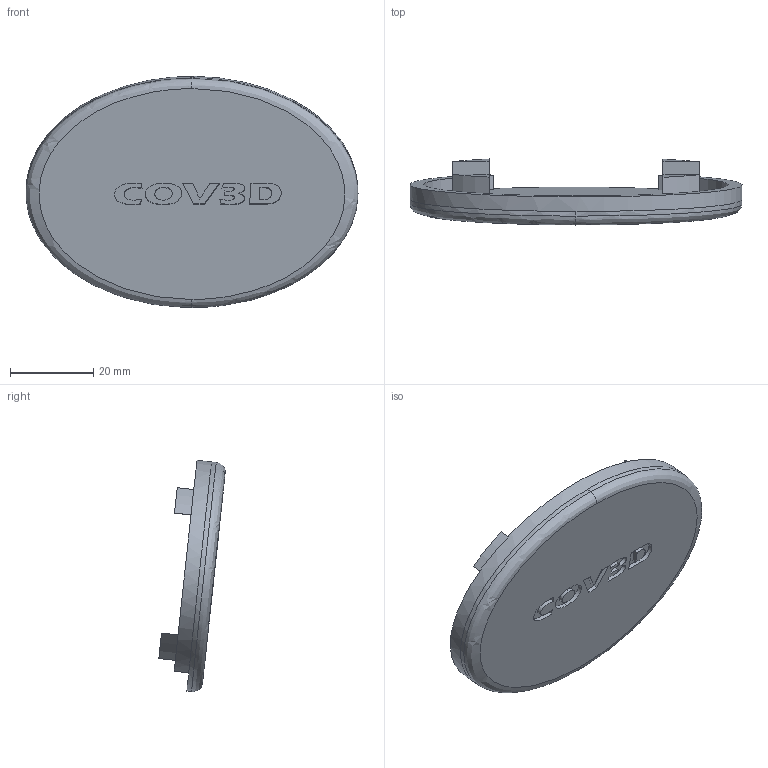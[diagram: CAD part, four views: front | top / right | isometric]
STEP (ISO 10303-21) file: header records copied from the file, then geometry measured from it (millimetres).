
FILE_DESCRIPTION(/* description */ (''),/* implementation_level */ '2;1');
FILE_NAME(/* name */ 'S-WIDE~3',/* time_stamp */ '2020-04-10T21:31:01+03:00',/* author */ (''),/* organization */ (''),/* preprocessor_version */ 'ST-DEVELOPER v16.5',/* originating_system */ '',/* authorisation */ '');
FILE_SCHEMA (('AUTOMOTIVE_DESIGN'));
Length unit declared in the file: millimetre
Products named in the file (1): Document
Bounding box: 79.62 x 15.91 x 55.45 mm (x, y, z)
Volume: 14231.2 mm3; surface area: 9525.2 mm2
Topology: 1 solids, 1 shells, 67 faces, 158 edges, 104 vertices
Faces by surface type: bspline 44, plane 23
Entity records: 2836 total; most frequent: CARTESIAN_POINT 1768, ORIENTED_EDGE 316, EDGE_CURVE 158, B_SPLINE_CURVE_WITH_KNOTS 131, VERTEX_POINT 104, EDGE_LOOP 78, ADVANCED_FACE 67, FACE_OUTER_BOUND 67
